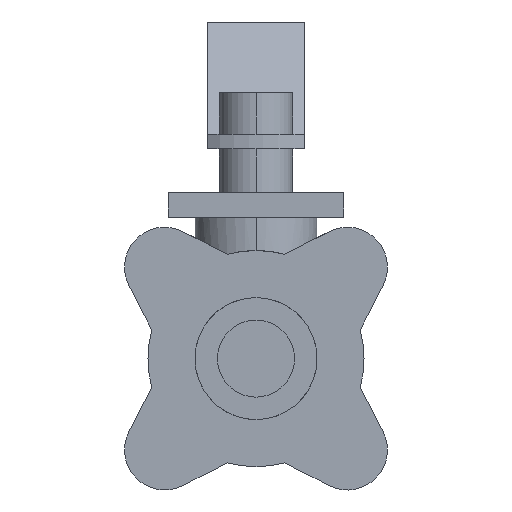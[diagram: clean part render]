
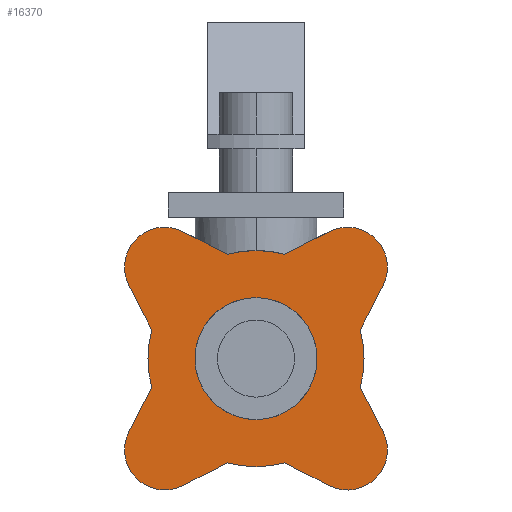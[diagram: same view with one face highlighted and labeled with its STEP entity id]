
A CAD part, left-side view. The second image highlights one B-rep face of the part: STEP entity #16370.
In plain terms, the highlighted planar face has unit normal (-1, 0, 0).
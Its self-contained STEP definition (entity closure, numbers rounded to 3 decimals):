
#200=CARTESIAN_POINT('',(-35.5,46.507,
-37.794));
#210=VERTEX_POINT('',#200);
#240=CARTESIAN_POINT('',(-35.5,65.434,
-43.944));
#250=DIRECTION('',(0.,0.951,
-0.309));
#260=VECTOR('',#250,1.);
#270=LINE('',#240,#260);
#280=CARTESIAN_POINT('',(-35.5,36.709,
-34.61));
#290=VERTEX_POINT('',#280);
#300=EDGE_CURVE('',#290,#210,#270,.T.);
#590=CARTESIAN_POINT('',(-35.5,54.761,
-46.047));
#600=VERTEX_POINT('',#590);
#630=CARTESIAN_POINT('',(-35.5,65.743,
-26.812));
#640=DIRECTION('',(-1.,0.,0.));
#650=DIRECTION('',(0.,1.,0.));
#660=AXIS2_PLACEMENT_3D('',#630,#640,#650);
#670=CIRCLE('',#660,22.15);
#680=EDGE_CURVE('',#600,#210,#670,.T.);
#910=CARTESIAN_POINT('',(-35.5,57.944,
-55.846));
#920=VERTEX_POINT('',#910);
#950=CARTESIAN_POINT('',(-35.5,57.944,
-55.846));
#960=DIRECTION('',(0.,0.309,
-0.951));
#970=VECTOR('',#960,1.);
#980=LINE('',#950,#970);
#990=EDGE_CURVE('',#600,#920,#980,.T.);
#1230=CARTESIAN_POINT('',(-35.5,73.542,
-55.846));
#1240=VERTEX_POINT('',#1230);
#1270=CARTESIAN_POINT('',(-35.5,65.743,
-53.312));
#1280=DIRECTION('',(-1.,0.,0.));
#1290=DIRECTION('',(0.,1.,0.));
#1300=AXIS2_PLACEMENT_3D('',#1270,#1280,#1290);
#1310=CIRCLE('',#1300,8.2);
#1320=EDGE_CURVE('',#1240,#920,#1310,.T.);
#1550=CARTESIAN_POINT('',(-35.5,76.725,
-46.047));
#1560=VERTEX_POINT('',#1550);
#1590=CARTESIAN_POINT('',(-35.5,82.875,
-27.121));
#1600=DIRECTION('',(0.,-0.309,
-0.951));
#1610=VECTOR('',#1600,1.);
#1620=LINE('',#1590,#1610);
#1630=EDGE_CURVE('',#1560,#1240,#1620,.T.);
#1870=CARTESIAN_POINT('',(-35.5,84.979,
-37.794));
#1880=VERTEX_POINT('',#1870);
#1910=CARTESIAN_POINT('',(-35.5,65.743,
-26.812));
#1920=DIRECTION('',(-1.,0.,0.));
#1930=DIRECTION('',(0.,1.,0.));
#1940=AXIS2_PLACEMENT_3D('',#1910,#1920,#1930);
#1950=CIRCLE('',#1940,22.15);
#1960=EDGE_CURVE('',#1880,#1560,#1950,.T.);
#2190=CARTESIAN_POINT('',(-35.5,94.777,
-34.61));
#2200=VERTEX_POINT('',#2190);
#2230=CARTESIAN_POINT('',(-35.5,66.052,
-43.944));
#2240=DIRECTION('',(0.,-0.951,
-0.309));
#2250=VECTOR('',#2240,1.);
#2260=LINE('',#2230,#2250);
#2270=EDGE_CURVE('',#2200,#1880,#2260,.T.);
#2510=CARTESIAN_POINT('',(-35.5,94.777,
-19.013));
#2520=VERTEX_POINT('',#2510);
#2550=CARTESIAN_POINT('',(-35.5,92.243,
-26.812));
#2560=DIRECTION('',(-1.,0.,0.));
#2570=DIRECTION('',(0.,1.,0.));
#2580=AXIS2_PLACEMENT_3D('',#2550,#2560,#2570);
#2590=CIRCLE('',#2580,8.2);
#2600=EDGE_CURVE('',#2520,#2200,#2590,.T.);
#2830=CARTESIAN_POINT('',(-35.5,84.979,
-15.829));
#2840=VERTEX_POINT('',#2830);
#2870=CARTESIAN_POINT('',(-35.5,66.052,
-9.68));
#2880=DIRECTION('',(0.,0.951,
-0.309));
#2890=VECTOR('',#2880,1.);
#2900=LINE('',#2870,#2890);
#2910=EDGE_CURVE('',#2840,#2520,#2900,.T.);
#3150=CARTESIAN_POINT('',(-35.5,76.725,
-7.576));
#3160=VERTEX_POINT('',#3150);
#3190=CARTESIAN_POINT('',(-35.5,65.743,
-26.812));
#3200=DIRECTION('',(-1.,0.,0.));
#3210=DIRECTION('',(0.,1.,0.));
#3220=AXIS2_PLACEMENT_3D('',#3190,#3200,#3210);
#3230=CIRCLE('',#3220,22.15);
#3240=EDGE_CURVE('',#3160,#2840,#3230,.T.);
#3470=CARTESIAN_POINT('',(-35.5,73.542,
2.222));
#3480=VERTEX_POINT('',#3470);
#3510=CARTESIAN_POINT('',(-35.5,82.875,
-26.503));
#3520=DIRECTION('',(0.,0.309,
-0.951));
#3530=VECTOR('',#3520,1.);
#3540=LINE('',#3510,#3530);
#3550=EDGE_CURVE('',#3480,#3160,#3540,.T.);
#3790=CARTESIAN_POINT('',(-35.5,57.944,
2.222));
#3800=VERTEX_POINT('',#3790);
#3830=CARTESIAN_POINT('',(-35.5,65.743,
-0.312));
#3840=DIRECTION('',(-1.,0.,0.));
#3850=DIRECTION('',(0.,1.,0.));
#3860=AXIS2_PLACEMENT_3D('',#3830,#3840,#3850);
#3870=CIRCLE('',#3860,8.2);
#3880=EDGE_CURVE('',#3800,#3480,#3870,.T.);
#4240=CARTESIAN_POINT('',(-35.5,54.761,
-7.576));
#4250=VERTEX_POINT('',#4240);
#4280=CARTESIAN_POINT('',(-35.5,48.611,
-26.503));
#4290=DIRECTION('',(0.,-0.309,
-0.951));
#4300=VECTOR('',#4290,1.);
#4310=LINE('',#4280,#4300);
#4320=EDGE_CURVE('',#3800,#4250,#4310,.T.);
#4830=CARTESIAN_POINT('',(-35.5,46.507,
-15.829));
#4840=VERTEX_POINT('',#4830);
#4870=CARTESIAN_POINT('',(-35.5,65.743,
-26.812));
#4880=DIRECTION('',(-1.,0.,0.));
#4890=DIRECTION('',(0.,1.,0.));
#4900=AXIS2_PLACEMENT_3D('',#4870,#4880,#4890);
#4910=CIRCLE('',#4900,22.15);
#4920=EDGE_CURVE('',#4840,#4250,#4910,.T.);
#5280=CARTESIAN_POINT('',(-35.5,36.709,
-19.013));
#5290=VERTEX_POINT('',#5280);
#5320=CARTESIAN_POINT('',(-35.5,65.434,
-9.68));
#5330=DIRECTION('',(0.,-0.951,
-0.309));
#5340=VECTOR('',#5330,1.);
#5350=LINE('',#5320,#5340);
#5360=EDGE_CURVE('',#4840,#5290,#5350,.T.);
#5550=CARTESIAN_POINT('',(-35.5,39.243,
-26.812));
#5560=DIRECTION('',(-1.,0.,0.));
#5570=DIRECTION('',(0.,1.,0.));
#5580=AXIS2_PLACEMENT_3D('',#5550,#5560,#5570);
#5590=CIRCLE('',#5580,8.2);
#5600=EDGE_CURVE('',#290,#5290,#5590,.T.);
#15420=CARTESIAN_POINT('',(-35.5,72.496,
-33.564));
#15430=VERTEX_POINT('',#15420);
#15480=CARTESIAN_POINT('',(-35.5,65.743,
-26.812));
#15490=DIRECTION('',(-1.,0.,0.));
#15500=DIRECTION('',(0.,-0.707,
0.707));
#15510=AXIS2_PLACEMENT_3D('',#15480,#15490,#15500);
#15520=CIRCLE('',#15510,9.55);
#15530=CARTESIAN_POINT('',(-35.5,58.99,
-20.059));
#15540=VERTEX_POINT('',#15530);
#15550=EDGE_CURVE('',#15540,#15430,#15520,.T.);
#16090=CARTESIAN_POINT('',(-35.5,33.093,
-26.812));
#16100=DIRECTION('',(1.,0.,-0.));
#16110=DIRECTION('',(0.,1.,0.));
#16120=AXIS2_PLACEMENT_3D('',#16090,#16100,#16110);
#16130=PLANE('',#16120);
#16140=ORIENTED_EDGE('',*,*,#300,.F.);
#16150=ORIENTED_EDGE('',*,*,#680,.T.);
#16160=ORIENTED_EDGE('',*,*,#990,.F.);
#16170=ORIENTED_EDGE('',*,*,#1320,.T.);
#16180=ORIENTED_EDGE('',*,*,#1630,.T.);
#16190=ORIENTED_EDGE('',*,*,#1960,.T.);
#16200=ORIENTED_EDGE('',*,*,#2270,.T.);
#16210=ORIENTED_EDGE('',*,*,#2600,.T.);
#16220=ORIENTED_EDGE('',*,*,#2910,.T.);
#16230=ORIENTED_EDGE('',*,*,#3240,.T.);
#16240=ORIENTED_EDGE('',*,*,#3550,.T.);
#16250=ORIENTED_EDGE('',*,*,#3880,.T.);
#16260=ORIENTED_EDGE('',*,*,#4320,.F.);
#16270=ORIENTED_EDGE('',*,*,#4920,.T.);
#16280=ORIENTED_EDGE('',*,*,#5360,.F.);
#16290=ORIENTED_EDGE('',*,*,#5600,.T.);
#16300=EDGE_LOOP('',(#16290,#16280,#16270,#16260,#16250,#16240,#16230,
#16220,#16210,#16200,#16190,#16180,#16170,#16160,#16150,#16140));
#16310=FACE_OUTER_BOUND('',#16300,.T.);
#16320=EDGE_CURVE('',#15430,#15540,#15520,.T.);
#16330=ORIENTED_EDGE('',*,*,#16320,.F.);
#16340=ORIENTED_EDGE('',*,*,#15550,.F.);
#16350=EDGE_LOOP('',(#16340,#16330));
#16360=FACE_BOUND('',#16350,.T.);
#16370=ADVANCED_FACE('',(#16310,#16360),#16130,.F.);
